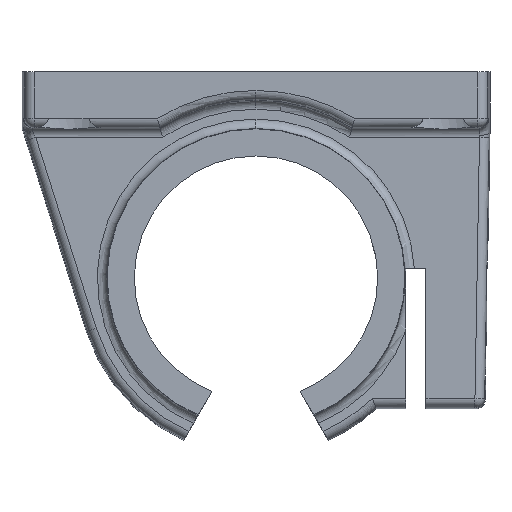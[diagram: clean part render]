
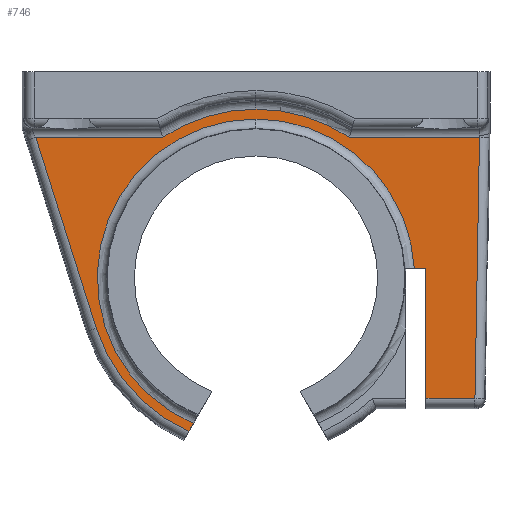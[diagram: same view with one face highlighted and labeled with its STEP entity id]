
A CAD part, front view. The second image highlights one B-rep face of the part: STEP entity #746.
In plain terms, the highlighted planar face has unit normal (0, -1, 0).
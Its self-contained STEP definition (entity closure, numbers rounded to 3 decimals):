
#27 = DIRECTION ( 'NONE',  ( 0., -1., 0. ) ) ;
#49 = VERTEX_POINT ( 'NONE', #2038 ) ;
#60 = VECTOR ( 'NONE', #1947, 1000. ) ;
#70 = ORIENTED_EDGE ( 'NONE', *, *, #4973, .T. ) ;
#216 = ORIENTED_EDGE ( 'NONE', *, *, #2916, .T. ) ;
#302 = EDGE_CURVE ( 'NONE', #4959, #49, #1589, .T. ) ;
#323 = VERTEX_POINT ( 'NONE', #4673 ) ;
#356 = CARTESIAN_POINT ( 'NONE',  ( 10.247, -7.5, -5.5 ) ) ;
#368 = AXIS2_PLACEMENT_3D ( 'NONE', #795, #27, #1838 ) ;
#545 = VERTEX_POINT ( 'NONE', #4168 ) ;
#626 = VECTOR ( 'NONE', #3164, 1000. ) ;
#650 = DIRECTION ( 'NONE',  ( 0., 0., 1. ) ) ;
#658 = CARTESIAN_POINT ( 'NONE',  ( 23.382, -7.5, -33.386 ) ) ;
#660 = CARTESIAN_POINT ( 'NONE',  ( 0., -7.5, -20.5 ) ) ;
#732 = LINE ( 'NONE', #5079, #4226 ) ;
#734 = CARTESIAN_POINT ( 'NONE',  ( 0., -7.5, -20.5 ) ) ;
#746 = ADVANCED_FACE ( 'NONE', ( #990 ), #2146, .F. ) ;
#753 = CARTESIAN_POINT ( 'NONE',  ( 0., -7.5, -3.552 ) ) ;
#795 = CARTESIAN_POINT ( 'NONE',  ( 0., -7.5, -20.5 ) ) ;
#883 = CARTESIAN_POINT ( 'NONE',  ( 9.95, -7.5, -5.5 ) ) ;
#945 = CARTESIAN_POINT ( 'NONE',  ( 0., -7.5, -20.5 ) ) ;
#949 = EDGE_CURVE ( 'NONE', #1602, #545, #2642, .T. ) ;
#990 = FACE_OUTER_BOUND ( 'NONE', #4759, .T. ) ;
#997 = VERTEX_POINT ( 'NONE', #1041 ) ;
#1034 = AXIS2_PLACEMENT_3D ( 'NONE', #945, #2065, #4132 ) ;
#1041 = CARTESIAN_POINT ( 'NONE',  ( 16.918, -7.5, -19.5 ) ) ;
#1052 = VERTEX_POINT ( 'NONE', #5025 ) ;
#1092 = AXIS2_PLACEMENT_3D ( 'NONE', #734, #3921, #3188 ) ;
#1111 = VECTOR ( 'NONE', #650, 1000. ) ;
#1460 = LINE ( 'NONE', #356, #60 ) ;
#1463 = VECTOR ( 'NONE', #4171, 1000. ) ;
#1589 = CIRCLE ( 'NONE', #1092, 17.886 ) ;
#1602 = VERTEX_POINT ( 'NONE', #3332 ) ;
#1624 = VERTEX_POINT ( 'NONE', #658 ) ;
#1669 = ORIENTED_EDGE ( 'NONE', *, *, #2984, .T. ) ;
#1782 = VECTOR ( 'NONE', #3231, 1000. ) ;
#1795 = CARTESIAN_POINT ( 'NONE',  ( 1.723, -7.5, -21.495 ) ) ;
#1819 = DIRECTION ( 'NONE',  ( 0., 0., 1. ) ) ;
#1838 = DIRECTION ( 'NONE',  ( 0., 0., 1. ) ) ;
#1947 = DIRECTION ( 'NONE',  ( -1., 0., 0. ) ) ;
#1952 = CIRCLE ( 'NONE', #2372, 16.948 ) ;
#1979 = EDGE_CURVE ( 'NONE', #3951, #4190, #1460, .T. ) ;
#2038 = CARTESIAN_POINT ( 'NONE',  ( -7.164, -7.5, -36.889 ) ) ;
#2049 = AXIS2_PLACEMENT_3D ( 'NONE', #660, #3529, #3074 ) ;
#2065 = DIRECTION ( 'NONE',  ( 0., 1., 0. ) ) ;
#2146 = PLANE ( 'NONE',  #2265 ) ;
#2237 = EDGE_CURVE ( 'NONE', #3789, #1052, #3615, .T. ) ;
#2265 = AXIS2_PLACEMENT_3D ( 'NONE', #3787, #4591, #1819 ) ;
#2297 = DIRECTION ( 'NONE',  ( 0., 0., 1. ) ) ;
#2306 = LINE ( 'NONE', #3482, #626 ) ;
#2332 = ORIENTED_EDGE ( 'NONE', *, *, #3565, .T. ) ;
#2366 = CIRCLE ( 'NONE', #1034, 16.948 ) ;
#2369 = EDGE_CURVE ( 'NONE', #323, #2946, #2366, .T. ) ;
#2372 = AXIS2_PLACEMENT_3D ( 'NONE', #3180, #2664, #2297 ) ;
#2404 = DIRECTION ( 'NONE',  ( 0.302, 0., -0.953 ) ) ;
#2449 = LINE ( 'NONE', #4065, #1782 ) ;
#2642 = LINE ( 'NONE', #4231, #1111 ) ;
#2660 = EDGE_CURVE ( 'NONE', #3752, #4959, #2771, .T. ) ;
#2664 = DIRECTION ( 'NONE',  ( 0., 1., 0. ) ) ;
#2771 = LINE ( 'NONE', #4359, #4294 ) ;
#2799 = CARTESIAN_POINT ( 'NONE',  ( -23.515, -7.5, -5.5 ) ) ;
#2813 = CIRCLE ( 'NONE', #2049, 18. ) ;
#2916 = EDGE_CURVE ( 'NONE', #2946, #997, #1952, .T. ) ;
#2946 = VERTEX_POINT ( 'NONE', #753 ) ;
#2984 = EDGE_CURVE ( 'NONE', #1602, #1624, #2449, .T. ) ;
#3054 = ORIENTED_EDGE ( 'NONE', *, *, #1979, .T. ) ;
#3074 = DIRECTION ( 'NONE',  ( 0., 0., 1. ) ) ;
#3112 = EDGE_CURVE ( 'NONE', #997, #545, #4562, .T. ) ;
#3164 = DIRECTION ( 'NONE',  ( 0.017, 0., 1. ) ) ;
#3180 = CARTESIAN_POINT ( 'NONE',  ( 0., -7.5, -20.5 ) ) ;
#3188 = DIRECTION ( 'NONE',  ( 0., 0., 1. ) ) ;
#3231 = DIRECTION ( 'NONE',  ( 1., 0., 0. ) ) ;
#3311 = CARTESIAN_POINT ( 'NONE',  ( 0., -7.5, -19.5 ) ) ;
#3312 = VECTOR ( 'NONE', #4592, 1000. ) ;
#3332 = CARTESIAN_POINT ( 'NONE',  ( 18.15, -7.5, -33.386 ) ) ;
#3365 = CARTESIAN_POINT ( 'NONE',  ( 23.869, -7.5, -5.5 ) ) ;
#3381 = ORIENTED_EDGE ( 'NONE', *, *, #4763, .T. ) ;
#3482 = CARTESIAN_POINT ( 'NONE',  ( 23.877, -7.5, -5.055 ) ) ;
#3529 = DIRECTION ( 'NONE',  ( 0., -1., 0. ) ) ;
#3554 = ORIENTED_EDGE ( 'NONE', *, *, #2237, .T. ) ;
#3565 = EDGE_CURVE ( 'NONE', #1624, #3951, #2306, .T. ) ;
#3615 = CIRCLE ( 'NONE', #368, 18. ) ;
#3752 = VERTEX_POINT ( 'NONE', #2799 ) ;
#3787 = CARTESIAN_POINT ( 'NONE',  ( 0., -7.5, -20.5 ) ) ;
#3789 = VERTEX_POINT ( 'NONE', #4433 ) ;
#3919 = DIRECTION ( 'NONE',  ( -1., 0., 0. ) ) ;
#3921 = DIRECTION ( 'NONE',  ( 0., -1., 0. ) ) ;
#3951 = VERTEX_POINT ( 'NONE', #3365 ) ;
#4065 = CARTESIAN_POINT ( 'NONE',  ( 24.348, -7.5, -33.386 ) ) ;
#4132 = DIRECTION ( 'NONE',  ( 0., 0., 1. ) ) ;
#4136 = ORIENTED_EDGE ( 'NONE', *, *, #5020, .T. ) ;
#4168 = CARTESIAN_POINT ( 'NONE',  ( 18.15, -7.5, -19.5 ) ) ;
#4171 = DIRECTION ( 'NONE',  ( 1., 0., 0. ) ) ;
#4190 = VERTEX_POINT ( 'NONE', #883 ) ;
#4226 = VECTOR ( 'NONE', #3919, 1000. ) ;
#4231 = CARTESIAN_POINT ( 'NONE',  ( 18.15, -7.5, -20.5 ) ) ;
#4236 = ORIENTED_EDGE ( 'NONE', *, *, #2660, .T. ) ;
#4294 = VECTOR ( 'NONE', #2404, 1000. ) ;
#4359 = CARTESIAN_POINT ( 'NONE',  ( -17.051, -7.5, -25.902 ) ) ;
#4393 = ORIENTED_EDGE ( 'NONE', *, *, #949, .F. ) ;
#4433 = CARTESIAN_POINT ( 'NONE',  ( 0., -7.5, -2.5 ) ) ;
#4437 = ORIENTED_EDGE ( 'NONE', *, *, #302, .T. ) ;
#4514 = CARTESIAN_POINT ( 'NONE',  ( -17.051, -7.5, -25.902 ) ) ;
#4562 = LINE ( 'NONE', #3311, #1463 ) ;
#4591 = DIRECTION ( 'NONE',  ( 0., 1., 0. ) ) ;
#4592 = DIRECTION ( 'NONE',  ( 0.5, 0., 0.866 ) ) ;
#4673 = CARTESIAN_POINT ( 'NONE',  ( -6.692, -7.5, -36.071 ) ) ;
#4736 = ORIENTED_EDGE ( 'NONE', *, *, #2369, .T. ) ;
#4759 = EDGE_LOOP ( 'NONE', ( #4393, #1669, #2332, #3054, #3381, #3554, #4136, #4236, #4437, #70, #4736, #216, #5089 ) ) ;
#4763 = EDGE_CURVE ( 'NONE', #4190, #3789, #2813, .T. ) ;
#4928 = LINE ( 'NONE', #1795, #3312 ) ;
#4959 = VERTEX_POINT ( 'NONE', #4514 ) ;
#4973 = EDGE_CURVE ( 'NONE', #49, #323, #4928, .T. ) ;
#5020 = EDGE_CURVE ( 'NONE', #1052, #3752, #732, .T. ) ;
#5025 = CARTESIAN_POINT ( 'NONE',  ( -9.95, -7.5, -5.5 ) ) ;
#5079 = CARTESIAN_POINT ( 'NONE',  ( -24.859, -7.5, -5.5 ) ) ;
#5089 = ORIENTED_EDGE ( 'NONE', *, *, #3112, .T. ) ;
